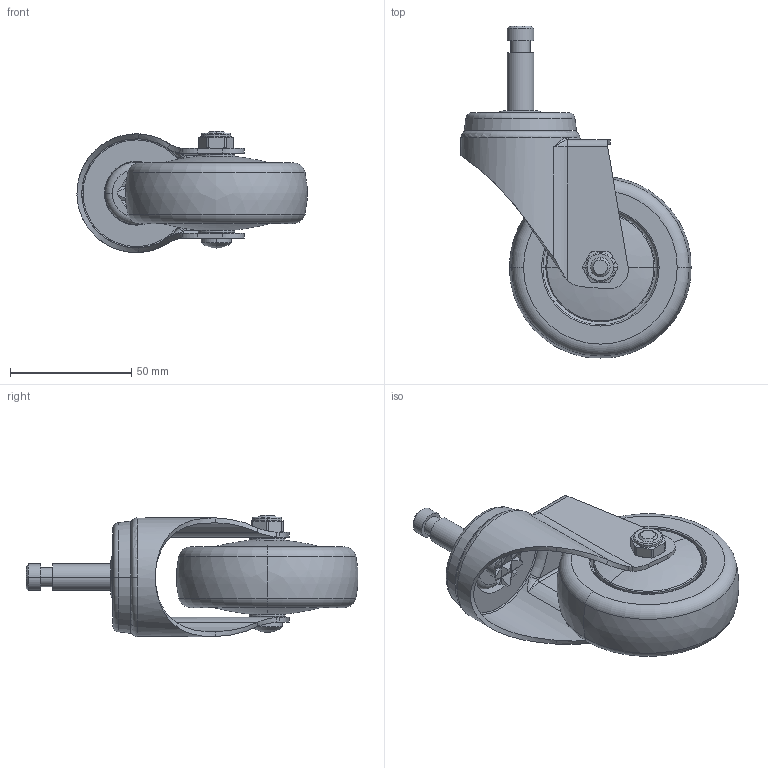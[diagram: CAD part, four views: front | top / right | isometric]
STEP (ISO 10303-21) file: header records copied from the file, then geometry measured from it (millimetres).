
FILE_DESCRIPTION((''),'2;1');
FILE_NAME('37153_ASM','2026-07-09T',('Lenovo'),(''),'PRO/ENGINEER BY PARAMETRIC TECHNOLOGY CORPORATION, 2010280','PRO/ENGINEER BY PARAMETRIC TECHNOLOGY CORPORATION, 2010280','');
FILE_SCHEMA(('CONFIG_CONTROL_DESIGN'));
Length unit declared in the file: millimetre
Products named in the file (8): 3713-311; 350-25; 360-03; 373-907; 373-69; 350-33A; 300-34; 37153_ASM
Assembly tree (8 placements, depth 2):
  37153_ASM
    3713-311
    350-25
    360-03
    373-907
    373-69  x2
    350-33A
    300-34
Bounding box: 94.88 x 136.9 x 49.98 mm (x, y, z)
Volume: 118505.7 mm3; surface area: 52494.9 mm2
Topology: 8 solids, 8 shells, 304 faces, 650 edges, 381 vertices
Faces by surface type: cylinder 87, plane 84, torus 74, cone 32, bspline 25, sphere 2
Entity records: 8632 total; most frequent: CARTESIAN_POINT 2470, DIRECTION 1374, ORIENTED_EDGE 1176, AXIS2_PLACEMENT_3D 599, EDGE_CURVE 588, VERTEX_POINT 347, CIRCLE 330, EDGE_LOOP 307
